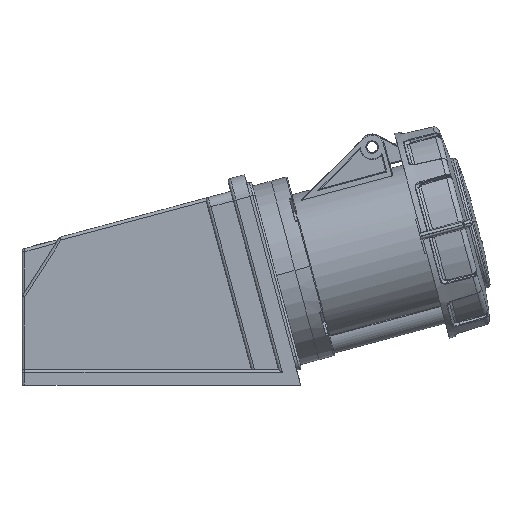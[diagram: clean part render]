
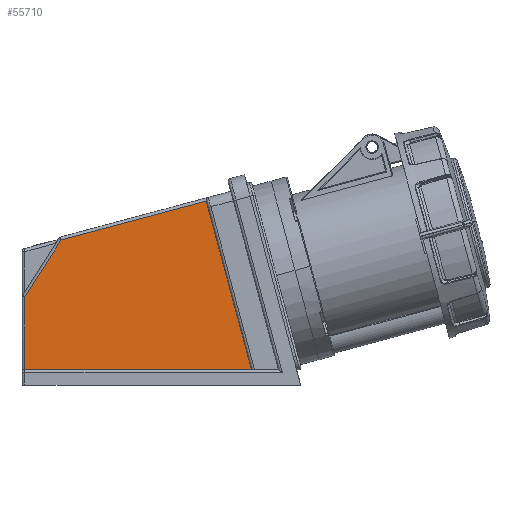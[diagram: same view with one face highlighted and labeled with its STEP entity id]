
A CAD part, left-side view. The second image highlights one B-rep face of the part: STEP entity #55710.
In plain terms, the highlighted planar face has unit normal (-1, 0, 0).
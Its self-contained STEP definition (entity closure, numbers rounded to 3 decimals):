
#54164 = VERTEX_POINT('',#54165);
#54165 = CARTESIAN_POINT('',(-42.5,70.5,45.716));
#54181 = VERTEX_POINT('',#54182);
#54182 = CARTESIAN_POINT('',(-42.5,70.5,8.));
#54189 = EDGE_CURVE('',#54164,#54181,#54190,.T.);
#54190 = LINE('',#54191,#54192);
#54191 = CARTESIAN_POINT('',(-42.5,70.5,26.858));
#54192 = VECTOR('',#54193,1.);
#54193 = DIRECTION('',(0.,0.,-1.));
#55684 = VERTEX_POINT('',#55685);
#55685 = CARTESIAN_POINT('',(-42.5,-23.22,
    95.116));
#55691 = EDGE_CURVE('',#55692,#55684,#55694,.T.);
#55692 = VERTEX_POINT('',#55693);
#55693 = CARTESIAN_POINT('',(-42.5,-46.563,8.));
#55694 = LINE('',#55695,#55696);
#55695 = CARTESIAN_POINT('',(-42.5,-34.891,51.558));
#55696 = VECTOR('',#55697,1.);
#55697 = DIRECTION('',(0.,0.259,0.966));
#55710 = ADVANCED_FACE('',(#55711),#55735,.F.);
#55711 = FACE_BOUND('',#55712,.T.);
#55712 = EDGE_LOOP('',(#55713,#55714,#55722,#55728,#55729));
#55713 = ORIENTED_EDGE('',*,*,#55691,.T.);
#55714 = ORIENTED_EDGE('',*,*,#55715,.T.);
#55715 = EDGE_CURVE('',#55684,#55716,#55718,.T.);
#55716 = VERTEX_POINT('',#55717);
#55717 = CARTESIAN_POINT('',(-42.5,51.732,75.033));
#55718 = LINE('',#55719,#55720);
#55719 = CARTESIAN_POINT('',(-42.5,-263.907,159.608));
#55720 = VECTOR('',#55721,1.);
#55721 = DIRECTION('',(0.,0.966,-0.259));
#55722 = ORIENTED_EDGE('',*,*,#55723,.T.);
#55723 = EDGE_CURVE('',#55716,#54164,#55724,.T.);
#55724 = LINE('',#55725,#55726);
#55725 = CARTESIAN_POINT('',(-42.5,-73.163,270.124));
#55726 = VECTOR('',#55727,1.);
#55727 = DIRECTION('',(0.,0.539,-0.842));
#55728 = ORIENTED_EDGE('',*,*,#54189,.T.);
#55729 = ORIENTED_EDGE('',*,*,#55730,.F.);
#55730 = EDGE_CURVE('',#55692,#54181,#55731,.T.);
#55731 = LINE('',#55732,#55733);
#55732 = CARTESIAN_POINT('',(-42.5,11.969,8.));
#55733 = VECTOR('',#55734,1.);
#55734 = DIRECTION('',(0.,1.,0.));
#55735 = PLANE('',#55736);
#55736 = AXIS2_PLACEMENT_3D('',#55737,#55738,#55739);
#55737 = CARTESIAN_POINT('',(-42.5,0.,0.));
#55738 = DIRECTION('',(1.,0.,0.));
#55739 = DIRECTION('',(-0.,1.,0.));
